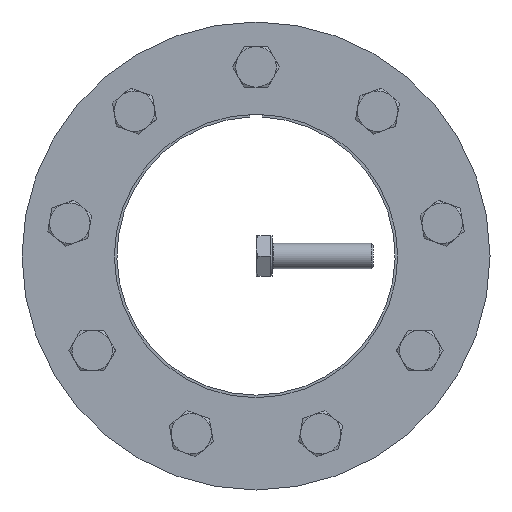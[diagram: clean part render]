
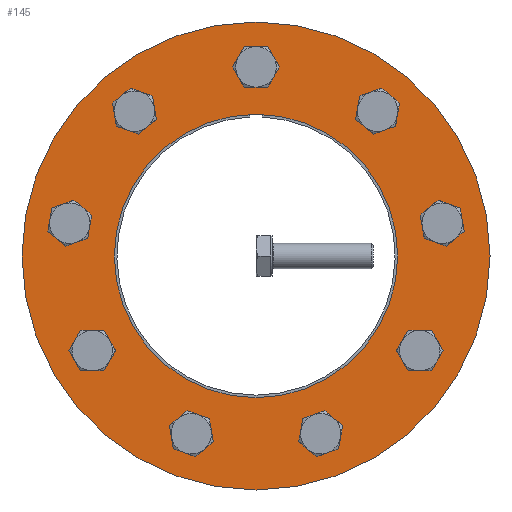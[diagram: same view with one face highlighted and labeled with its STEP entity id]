
A CAD part, front view. The second image highlights one B-rep face of the part: STEP entity #145.
In plain terms, the highlighted planar face has unit normal (0, -1, 0).
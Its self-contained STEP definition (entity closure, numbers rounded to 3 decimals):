
#145 = ADVANCED_FACE( '', ( #337, #338, #339, #340, #341, #342, #343, #344, #345, #346, #347 ), #348, .F. );
#337 = FACE_BOUND( '', #556, .T. );
#338 = FACE_BOUND( '', #557, .T. );
#339 = FACE_BOUND( '', #558, .T. );
#340 = FACE_BOUND( '', #559, .T. );
#341 = FACE_OUTER_BOUND( '', #560, .T. );
#342 = FACE_BOUND( '', #561, .T. );
#343 = FACE_BOUND( '', #562, .T. );
#344 = FACE_BOUND( '', #563, .T. );
#345 = FACE_BOUND( '', #564, .T. );
#346 = FACE_BOUND( '', #565, .T. );
#347 = FACE_BOUND( '', #566, .T. );
#348 = PLANE( '', #567 );
#556 = EDGE_LOOP( '', ( #914 ) );
#557 = EDGE_LOOP( '', ( #915 ) );
#558 = EDGE_LOOP( '', ( #916 ) );
#559 = EDGE_LOOP( '', ( #917 ) );
#560 = EDGE_LOOP( '', ( #918 ) );
#561 = EDGE_LOOP( '', ( #919 ) );
#562 = EDGE_LOOP( '', ( #920 ) );
#563 = EDGE_LOOP( '', ( #921 ) );
#564 = EDGE_LOOP( '', ( #922 ) );
#565 = EDGE_LOOP( '', ( #923 ) );
#566 = EDGE_LOOP( '', ( #924 ) );
#567 = AXIS2_PLACEMENT_3D( '', #925, #926, #927 );
#914 = ORIENTED_EDGE( '', *, *, #1152, .T. );
#915 = ORIENTED_EDGE( '', *, *, #1127, .T. );
#916 = ORIENTED_EDGE( '', *, *, #1123, .T. );
#917 = ORIENTED_EDGE( '', *, *, #1153, .T. );
#918 = ORIENTED_EDGE( '', *, *, #1150, .T. );
#919 = ORIENTED_EDGE( '', *, *, #1154, .F. );
#920 = ORIENTED_EDGE( '', *, *, #1092, .T. );
#921 = ORIENTED_EDGE( '', *, *, #1155, .T. );
#922 = ORIENTED_EDGE( '', *, *, #1112, .T. );
#923 = ORIENTED_EDGE( '', *, *, #1156, .T. );
#924 = ORIENTED_EDGE( '', *, *, #1064, .T. );
#925 = CARTESIAN_POINT( '', ( 0., -25., 92.5 ) );
#926 = DIRECTION( '', ( 0., 1., 0. ) );
#927 = DIRECTION( '', ( 0., 0., 1. ) );
#1064 = EDGE_CURVE( '', #1258, #1258, #1259, .T. );
#1092 = EDGE_CURVE( '', #1308, #1308, #1309, .T. );
#1112 = EDGE_CURVE( '', #1339, #1339, #1340, .T. );
#1123 = EDGE_CURVE( '', #1354, #1354, #1355, .T. );
#1127 = EDGE_CURVE( '', #1360, #1360, #1361, .T. );
#1150 = EDGE_CURVE( '', #1391, #1391, #1392, .T. );
#1152 = EDGE_CURVE( '', #1394, #1394, #1395, .T. );
#1153 = EDGE_CURVE( '', #1396, #1396, #1397, .T. );
#1154 = EDGE_CURVE( '', #1398, #1398, #1399, .T. );
#1155 = EDGE_CURVE( '', #1400, #1400, #1401, .T. );
#1156 = EDGE_CURVE( '', #1402, #1402, #1403, .T. );
#1258 = VERTEX_POINT( '', #1626 );
#1259 = CIRCLE( '', #1627, 5. );
#1308 = VERTEX_POINT( '', #1686 );
#1309 = CIRCLE( '', #1687, 5. );
#1339 = VERTEX_POINT( '', #1727 );
#1340 = CIRCLE( '', #1728, 5. );
#1354 = VERTEX_POINT( '', #1746 );
#1355 = CIRCLE( '', #1747, 5. );
#1360 = VERTEX_POINT( '', #1752 );
#1361 = CIRCLE( '', #1753, 5. );
#1391 = VERTEX_POINT( '', #1787 );
#1392 = CIRCLE( '', #1788, 92.5 );
#1394 = VERTEX_POINT( '', #1790 );
#1395 = CIRCLE( '', #1791, 5. );
#1396 = VERTEX_POINT( '', #1792 );
#1397 = CIRCLE( '', #1793, 5. );
#1398 = VERTEX_POINT( '', #1794 );
#1399 = CIRCLE( '', #1795, 56. );
#1400 = VERTEX_POINT( '', #1796 );
#1401 = CIRCLE( '', #1797, 5. );
#1402 = VERTEX_POINT( '', #1798 );
#1403 = CIRCLE( '', #1799, 5. );
#1626 = CARTESIAN_POINT( '', ( -44.218, -25., 60.476 ) );
#1627 = AXIS2_PLACEMENT_3D( '', #1889, #1890, #1891 );
#1686 = CARTESIAN_POINT( '', ( 5., -25., 74.75 ) );
#1687 = AXIS2_PLACEMENT_3D( '', #1944, #1945, #1946 );
#1727 = CARTESIAN_POINT( '', ( 20.868, -25., -71.952 ) );
#1728 = AXIS2_PLACEMENT_3D( '', #1975, #1976, #1977 );
#1746 = CARTESIAN_POINT( '', ( 62.235, -25., -41.705 ) );
#1747 = AXIS2_PLACEMENT_3D( '', #1988, #1989, #1990 );
#1752 = CARTESIAN_POINT( '', ( -30.264, -25., -68.532 ) );
#1753 = AXIS2_PLACEMENT_3D( '', #1994, #1995, #1996 );
#1787 = CARTESIAN_POINT( '', ( 0., -25., -92.5 ) );
#1788 = AXIS2_PLACEMENT_3D( '', #2028, #2029, #2030 );
#1790 = CARTESIAN_POINT( '', ( -72.746, -25., 17.904 ) );
#1791 = AXIS2_PLACEMENT_3D( '', #2031, #2032, #2033 );
#1792 = CARTESIAN_POINT( '', ( 51.879, -25., 54.048 ) );
#1793 = AXIS2_PLACEMENT_3D( '', #2034, #2035, #2036 );
#1794 = CARTESIAN_POINT( '', ( 0., -25., -56. ) );
#1795 = AXIS2_PLACEMENT_3D( '', #2037, #2038, #2039 );
#1796 = CARTESIAN_POINT( '', ( 74.483, -25., 8.056 ) );
#1797 = AXIS2_PLACEMENT_3D( '', #2040, #2041, #2042 );
#1798 = CARTESIAN_POINT( '', ( -67.235, -25., -33.045 ) );
#1799 = AXIS2_PLACEMENT_3D( '', #2043, #2044, #2045 );
#1889 = CARTESIAN_POINT( '', ( -48.048, -25., 57.262 ) );
#1890 = DIRECTION( '', ( 0., 1., 0. ) );
#1891 = DIRECTION( '', ( 0.766, 0., 0.643 ) );
#1944 = CARTESIAN_POINT( '', ( 0., -25., 74.75 ) );
#1945 = DIRECTION( '', ( 0., 1., 0. ) );
#1946 = DIRECTION( '', ( 1., 0., 0. ) );
#1975 = CARTESIAN_POINT( '', ( 25.566, -25., -70.242 ) );
#1976 = DIRECTION( '', ( 0., 1., 0. ) );
#1977 = DIRECTION( '', ( -0.94, 0., -0.342 ) );
#1988 = CARTESIAN_POINT( '', ( 64.735, -25., -37.375 ) );
#1989 = DIRECTION( '', ( 0., 1., 0. ) );
#1990 = DIRECTION( '', ( -0.5, 0., -0.866 ) );
#1994 = CARTESIAN_POINT( '', ( -25.566, -25., -70.242 ) );
#1995 = DIRECTION( '', ( 0., 1., 0. ) );
#1996 = DIRECTION( '', ( -0.94, 0., 0.342 ) );
#2028 = CARTESIAN_POINT( '', ( 0., -25., 0. ) );
#2029 = DIRECTION( '', ( 0., -1., 0. ) );
#2030 = DIRECTION( '', ( 0., 0., -1. ) );
#2031 = CARTESIAN_POINT( '', ( -73.614, -25., 12.98 ) );
#2032 = DIRECTION( '', ( 0., 1., 0. ) );
#2033 = DIRECTION( '', ( 0.174, 0., 0.985 ) );
#2034 = CARTESIAN_POINT( '', ( 48.048, -25., 57.262 ) );
#2035 = DIRECTION( '', ( 0., 1., 0. ) );
#2036 = DIRECTION( '', ( 0.766, 0., -0.643 ) );
#2037 = CARTESIAN_POINT( '', ( 0., -25., 0. ) );
#2038 = DIRECTION( '', ( 0., -1., 0. ) );
#2039 = DIRECTION( '', ( 0., 0., -1. ) );
#2040 = CARTESIAN_POINT( '', ( 73.614, -25., 12.98 ) );
#2041 = DIRECTION( '', ( 0., 1., 0. ) );
#2042 = DIRECTION( '', ( 0.174, 0., -0.985 ) );
#2043 = CARTESIAN_POINT( '', ( -64.735, -25., -37.375 ) );
#2044 = DIRECTION( '', ( 0., 1., 0. ) );
#2045 = DIRECTION( '', ( -0.5, 0., 0.866 ) );
